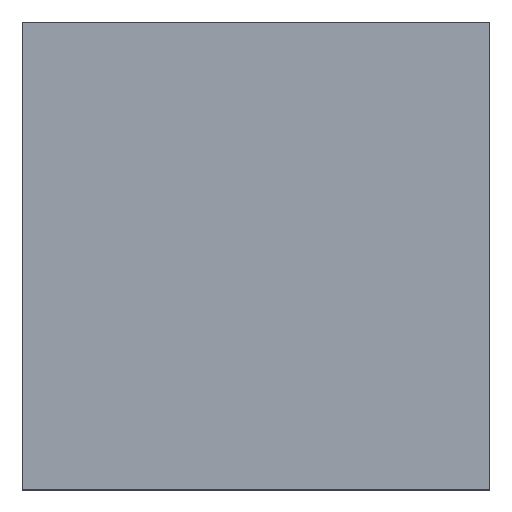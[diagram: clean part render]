
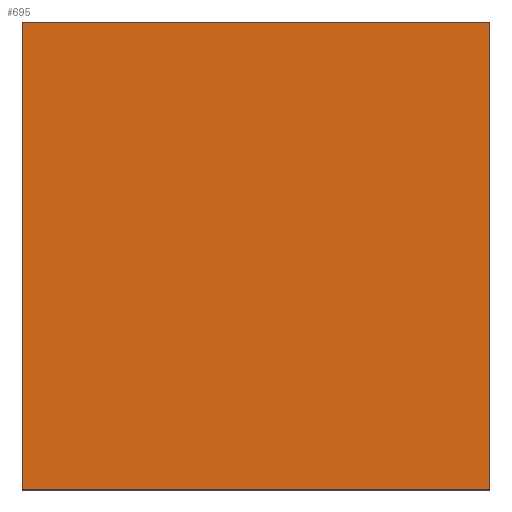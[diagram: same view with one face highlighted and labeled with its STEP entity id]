
A CAD part, top view. The second image highlights one B-rep face of the part: STEP entity #695.
In plain terms, the highlighted planar face has unit normal (0, 0, 1).
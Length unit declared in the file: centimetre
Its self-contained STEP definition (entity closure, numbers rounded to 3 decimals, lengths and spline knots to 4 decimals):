
#45 = LINE ( 'NONE', #596, #711 ) ;
#63 = VERTEX_POINT ( 'NONE', #541 ) ;
#76 = EDGE_CURVE ( 'NONE', #225, #164, #722, .T. ) ;
#101 = PLANE ( 'NONE',  #351 ) ;
#107 = CARTESIAN_POINT ( 'NONE',  ( 0., 1000., 1000. ) ) ;
#113 = FACE_OUTER_BOUND ( 'NONE', #785, .T. ) ;
#124 = CARTESIAN_POINT ( 'NONE',  ( 0., 0., 1000. ) ) ;
#126 = ORIENTED_EDGE ( 'NONE', *, *, #76, .T. ) ;
#142 = CARTESIAN_POINT ( 'NONE',  ( 0., 0., 1000. ) ) ;
#147 = CARTESIAN_POINT ( 'NONE',  ( 0., 1000., 1000. ) ) ;
#164 = VERTEX_POINT ( 'NONE', #615 ) ;
#225 = VERTEX_POINT ( 'NONE', #142 ) ;
#276 = ORIENTED_EDGE ( 'NONE', *, *, #319, .T. ) ;
#302 = VECTOR ( 'NONE', #380, 100. ) ;
#319 = EDGE_CURVE ( 'NONE', #63, #225, #649, .T. ) ;
#351 = AXIS2_PLACEMENT_3D ( 'NONE', #522, #471, #524 ) ;
#360 = ORIENTED_EDGE ( 'NONE', *, *, #394, .T. ) ;
#380 = DIRECTION ( 'NONE',  ( 0., -1., 0. ) ) ;
#390 = DIRECTION ( 'NONE',  ( 0., 1., 0. ) ) ;
#394 = EDGE_CURVE ( 'NONE', #477, #63, #712, .T. ) ;
#425 = ORIENTED_EDGE ( 'NONE', *, *, #765, .T. ) ;
#438 = DIRECTION ( 'NONE',  ( 1., 0., 0. ) ) ;
#466 = VECTOR ( 'NONE', #438, 100. ) ;
#471 = DIRECTION ( 'NONE',  ( 0., 0., 1. ) ) ;
#477 = VERTEX_POINT ( 'NONE', #717 ) ;
#522 = CARTESIAN_POINT ( 'NONE',  ( 0., 0., 1000. ) ) ;
#524 = DIRECTION ( 'NONE',  ( 1., 0., 0. ) ) ;
#541 = CARTESIAN_POINT ( 'NONE',  ( 0., 1000., 1000. ) ) ;
#596 = CARTESIAN_POINT ( 'NONE',  ( 1000., 1000., 1000. ) ) ;
#604 = VECTOR ( 'NONE', #766, 100. ) ;
#615 = CARTESIAN_POINT ( 'NONE',  ( 1000., 0., 1000. ) ) ;
#649 = LINE ( 'NONE', #147, #302 ) ;
#695 = ADVANCED_FACE ( 'NONE', ( #113 ), #101, .T. ) ;
#711 = VECTOR ( 'NONE', #390, 100. ) ;
#712 = LINE ( 'NONE', #107, #604 ) ;
#717 = CARTESIAN_POINT ( 'NONE',  ( 1000., 1000., 1000. ) ) ;
#722 = LINE ( 'NONE', #124, #466 ) ;
#765 = EDGE_CURVE ( 'NONE', #164, #477, #45, .T. ) ;
#766 = DIRECTION ( 'NONE',  ( -1., 0., 0. ) ) ;
#785 = EDGE_LOOP ( 'NONE', ( #276, #126, #425, #360 ) ) ;
